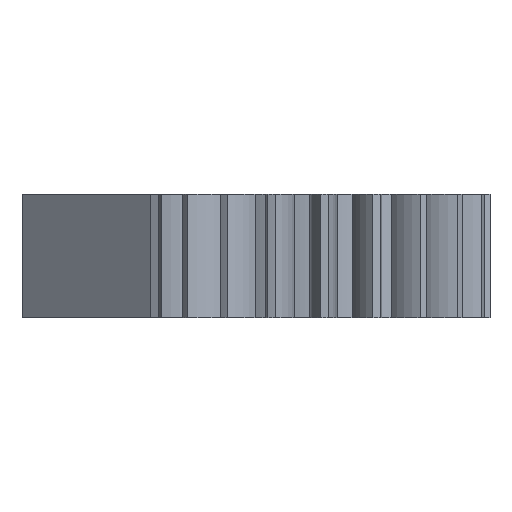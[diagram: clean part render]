
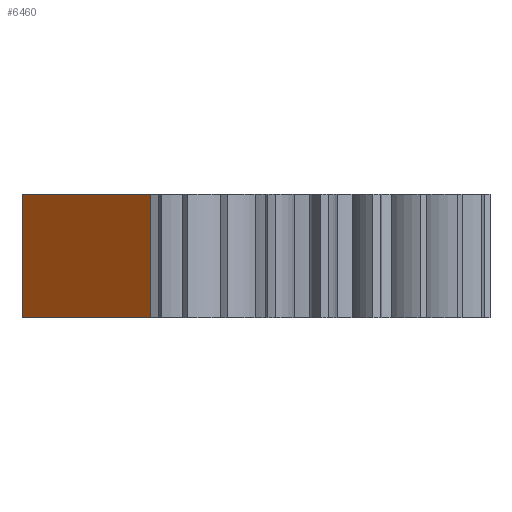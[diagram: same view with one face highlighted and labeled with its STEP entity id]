
A CAD part, left-side view. The second image highlights one B-rep face of the part: STEP entity #6460.
In plain terms, the highlighted planar face has unit normal (-0.744, 0.669, 0).
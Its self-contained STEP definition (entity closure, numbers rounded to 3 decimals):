
#32 = PLANE('',#33);
#33 = AXIS2_PLACEMENT_3D('',#34,#35,#36);
#34 = CARTESIAN_POINT('',(12.7,61.42,-22.5));
#35 = DIRECTION('',(0.,0.,1.));
#36 = DIRECTION('',(-0.181,0.983,0.)
  );
#2171 = VERTEX_POINT('',#2172);
#2172 = CARTESIAN_POINT('',(14.025,66.991,-22.5));
#2186 = PLANE('',#2187);
#2187 = AXIS2_PLACEMENT_3D('',#2188,#2189,#2190);
#2188 = CARTESIAN_POINT('',(14.025,66.991,-32.5));
#2189 = DIRECTION('',(-0.99,0.14,0.
    ));
#2190 = DIRECTION('',(0.14,0.99,0.)
  );
#2198 = EDGE_CURVE('',#2199,#2171,#2201,.T.);
#2199 = VERTEX_POINT('',#2200);
#2200 = CARTESIAN_POINT('',(30.718,85.561,-22.5));
#2201 = SURFACE_CURVE('',#2202,(#2206,#2213),.PCURVE_S1.);
#2202 = LINE('',#2203,#2204);
#2203 = CARTESIAN_POINT('',(30.718,85.561,-22.5));
#2204 = VECTOR('',#2205,1.);
#2205 = DIRECTION('',(-0.669,-0.744,0.)
  );
#2206 = PCURVE('',#32,#2207);
#2207 = DEFINITIONAL_REPRESENTATION('',(#2208),#2212);
#2208 = LINE('',#2209,#2210);
#2209 = CARTESIAN_POINT('',(20.483,-22.088));
#2210 = VECTOR('',#2211,1.);
#2211 = DIRECTION('',(-0.61,0.792));
#2212 = ( GEOMETRIC_REPRESENTATION_CONTEXT(2) 
PARAMETRIC_REPRESENTATION_CONTEXT() REPRESENTATION_CONTEXT('2D SPACE',''
  ) );
#2213 = PCURVE('',#2214,#2219);
#2214 = PLANE('',#2215);
#2215 = AXIS2_PLACEMENT_3D('',#2216,#2217,#2218);
#2216 = CARTESIAN_POINT('',(30.718,85.561,-12.5));
#2217 = DIRECTION('',(0.744,-0.669,0.)
  );
#2218 = DIRECTION('',(-0.669,-0.744,0.)
  );
#2219 = DEFINITIONAL_REPRESENTATION('',(#2220),#2224);
#2220 = LINE('',#2221,#2222);
#2221 = CARTESIAN_POINT('',(0.,10.));
#2222 = VECTOR('',#2223,1.);
#2223 = DIRECTION('',(1.,0.));
#2224 = ( GEOMETRIC_REPRESENTATION_CONTEXT(2) 
PARAMETRIC_REPRESENTATION_CONTEXT() REPRESENTATION_CONTEXT('2D SPACE',''
  ) );
#2240 = PLANE('',#2241);
#2241 = AXIS2_PLACEMENT_3D('',#2242,#2243,#2244);
#2242 = CARTESIAN_POINT('',(33.939,82.666,
    -16.443));
#2243 = DIRECTION('',(0.669,0.744,0.)
  );
#2244 = DIRECTION('',(0.,0.,-1.));
#2301 = PLANE('',#2302);
#2302 = AXIS2_PLACEMENT_3D('',#2303,#2304,#2305);
#2303 = CARTESIAN_POINT('',(12.7,61.42,-12.5));
#2304 = DIRECTION('',(0.,0.,-1.));
#2305 = DIRECTION('',(0.181,-0.983,0.)
  );
#2344 = VERTEX_POINT('',#2345);
#2345 = CARTESIAN_POINT('',(30.718,85.561,-12.5));
#2366 = EDGE_CURVE('',#2344,#2367,#2369,.T.);
#2367 = VERTEX_POINT('',#2368);
#2368 = CARTESIAN_POINT('',(14.025,66.991,-12.5));
#2369 = SURFACE_CURVE('',#2370,(#2374,#2381),.PCURVE_S1.);
#2370 = LINE('',#2371,#2372);
#2371 = CARTESIAN_POINT('',(30.718,85.561,-12.5));
#2372 = VECTOR('',#2373,1.);
#2373 = DIRECTION('',(-0.669,-0.744,0.)
  );
#2374 = PCURVE('',#2301,#2375);
#2375 = DEFINITIONAL_REPRESENTATION('',(#2376),#2380);
#2376 = LINE('',#2377,#2378);
#2377 = CARTESIAN_POINT('',(-20.483,-22.088));
#2378 = VECTOR('',#2379,1.);
#2379 = DIRECTION('',(0.61,0.792));
#2380 = ( GEOMETRIC_REPRESENTATION_CONTEXT(2) 
PARAMETRIC_REPRESENTATION_CONTEXT() REPRESENTATION_CONTEXT('2D SPACE',''
  ) );
#2381 = PCURVE('',#2214,#2382);
#2382 = DEFINITIONAL_REPRESENTATION('',(#2383),#2387);
#2383 = LINE('',#2384,#2385);
#2384 = CARTESIAN_POINT('',(0.,-0.));
#2385 = VECTOR('',#2386,1.);
#2386 = DIRECTION('',(1.,0.));
#2387 = ( GEOMETRIC_REPRESENTATION_CONTEXT(2) 
PARAMETRIC_REPRESENTATION_CONTEXT() REPRESENTATION_CONTEXT('2D SPACE',''
  ) );
#4395 = EDGE_CURVE('',#2171,#2367,#4396,.T.);
#4396 = SURFACE_CURVE('',#4397,(#4401,#4408),.PCURVE_S1.);
#4397 = LINE('',#4398,#4399);
#4398 = CARTESIAN_POINT('',(14.025,66.991,-32.5));
#4399 = VECTOR('',#4400,1.);
#4400 = DIRECTION('',(0.,0.,1.));
#4401 = PCURVE('',#2186,#4402);
#4402 = DEFINITIONAL_REPRESENTATION('',(#4403),#4407);
#4403 = LINE('',#4404,#4405);
#4404 = CARTESIAN_POINT('',(0.,-0.));
#4405 = VECTOR('',#4406,1.);
#4406 = DIRECTION('',(0.,-1.));
#4407 = ( GEOMETRIC_REPRESENTATION_CONTEXT(2) 
PARAMETRIC_REPRESENTATION_CONTEXT() REPRESENTATION_CONTEXT('2D SPACE',''
  ) );
#4408 = PCURVE('',#2214,#4409);
#4409 = DEFINITIONAL_REPRESENTATION('',(#4410),#4414);
#4410 = LINE('',#4411,#4412);
#4411 = CARTESIAN_POINT('',(24.97,20.));
#4412 = VECTOR('',#4413,1.);
#4413 = DIRECTION('',(0.,-1.));
#4414 = ( GEOMETRIC_REPRESENTATION_CONTEXT(2) 
PARAMETRIC_REPRESENTATION_CONTEXT() REPRESENTATION_CONTEXT('2D SPACE',''
  ) );
#6440 = EDGE_CURVE('',#2199,#2344,#6441,.T.);
#6441 = SURFACE_CURVE('',#6442,(#6446,#6453),.PCURVE_S1.);
#6442 = LINE('',#6443,#6444);
#6443 = CARTESIAN_POINT('',(30.718,85.561,-12.5));
#6444 = VECTOR('',#6445,1.);
#6445 = DIRECTION('',(0.,0.,1.));
#6446 = PCURVE('',#2240,#6447);
#6447 = DEFINITIONAL_REPRESENTATION('',(#6448),#6452);
#6448 = LINE('',#6449,#6450);
#6449 = CARTESIAN_POINT('',(-3.943,4.33));
#6450 = VECTOR('',#6451,1.);
#6451 = DIRECTION('',(-1.,0.));
#6452 = ( GEOMETRIC_REPRESENTATION_CONTEXT(2) 
PARAMETRIC_REPRESENTATION_CONTEXT() REPRESENTATION_CONTEXT('2D SPACE',''
  ) );
#6453 = PCURVE('',#2214,#6454);
#6454 = DEFINITIONAL_REPRESENTATION('',(#6455),#6459);
#6455 = LINE('',#6456,#6457);
#6456 = CARTESIAN_POINT('',(0.,-0.));
#6457 = VECTOR('',#6458,1.);
#6458 = DIRECTION('',(0.,-1.));
#6459 = ( GEOMETRIC_REPRESENTATION_CONTEXT(2) 
PARAMETRIC_REPRESENTATION_CONTEXT() REPRESENTATION_CONTEXT('2D SPACE',''
  ) );
#6460 = ADVANCED_FACE('',(#6461),#2214,.F.);
#6461 = FACE_BOUND('',#6462,.T.);
#6462 = EDGE_LOOP('',(#6463,#6464,#6465,#6466));
#6463 = ORIENTED_EDGE('',*,*,#4395,.T.);
#6464 = ORIENTED_EDGE('',*,*,#2366,.F.);
#6465 = ORIENTED_EDGE('',*,*,#6440,.F.);
#6466 = ORIENTED_EDGE('',*,*,#2198,.T.);
